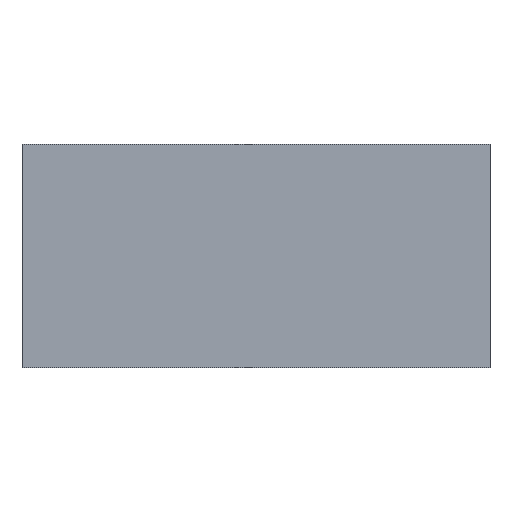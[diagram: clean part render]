
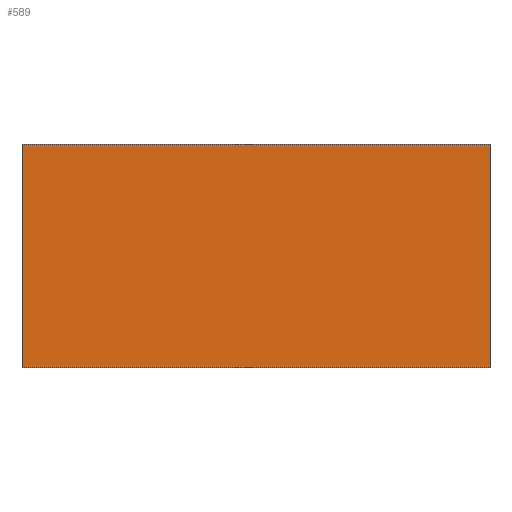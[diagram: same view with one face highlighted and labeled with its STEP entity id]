
A CAD part, top view. The second image highlights one B-rep face of the part: STEP entity #589.
In plain terms, the highlighted planar face has unit normal (0, 0, 1).
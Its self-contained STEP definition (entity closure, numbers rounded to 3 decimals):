
#589=ADVANCED_FACE($,(#825),#3043,.T.);
#825=FACE_OUTER_BOUND($,#1061,.T.);
#1061=EDGE_LOOP($,(#1348,#1349,#1350,#1351));
#1348=ORIENTED_EDGE($,*,*,#2283,.F.);
#1349=ORIENTED_EDGE($,*,*,#2282,.F.);
#1350=ORIENTED_EDGE($,*,*,#2281,.F.);
#1351=ORIENTED_EDGE($,*,*,#2280,.F.);
#2280=EDGE_CURVE($,#2754,#2755,#3116,.T.);
#2281=EDGE_CURVE($,#2755,#2756,#3117,.T.);
#2282=EDGE_CURVE($,#2756,#2757,#3118,.T.);
#2283=EDGE_CURVE($,#2757,#2754,#3119,.T.);
#2754=VERTEX_POINT($,#3526);
#2755=VERTEX_POINT($,#3527);
#2756=VERTEX_POINT($,#3528);
#2757=VERTEX_POINT($,#3529);
#3043=PLANE($,#3343);
#3116=B_SPLINE_CURVE_WITH_KNOTS($,1,(#3500,#3501),.UNSPECIFIED.,.F.,.F.,
(2,2),(0.,1100.),.UNSPECIFIED.);
#3117=B_SPLINE_CURVE_WITH_KNOTS($,1,(#3502,#3503),.UNSPECIFIED.,.F.,.F.,
(2,2),(0.,2300.),.UNSPECIFIED.);
#3118=B_SPLINE_CURVE_WITH_KNOTS($,1,(#3504,#3505),.UNSPECIFIED.,.F.,.F.,
(2,2),(0.,1100.),.UNSPECIFIED.);
#3119=B_SPLINE_CURVE_WITH_KNOTS($,1,(#3506,#3507),.UNSPECIFIED.,.F.,.F.,
(2,2),(0.,2300.),.UNSPECIFIED.);
#3343=AXIS2_PLACEMENT_3D($,#3521,#3420,$);
#3420=DIRECTION($,(0.,0.,1.));
#3500=CARTESIAN_POINT($,(-100.,0.,745.));
#3501=CARTESIAN_POINT($,(-100.,1100.,745.));
#3502=CARTESIAN_POINT($,(-100.,1100.,745.));
#3503=CARTESIAN_POINT($,(2200.,1100.,745.));
#3504=CARTESIAN_POINT($,(2200.,1100.,745.));
#3505=CARTESIAN_POINT($,(2200.,0.,745.));
#3506=CARTESIAN_POINT($,(2200.,0.,745.));
#3507=CARTESIAN_POINT($,(-100.,0.,745.));
#3521=CARTESIAN_POINT($,(-100.,0.,745.));
#3526=CARTESIAN_POINT($,(-100.,0.,745.));
#3527=CARTESIAN_POINT($,(-100.,1100.,745.));
#3528=CARTESIAN_POINT($,(2200.,1100.,745.));
#3529=CARTESIAN_POINT($,(2200.,0.,745.));
